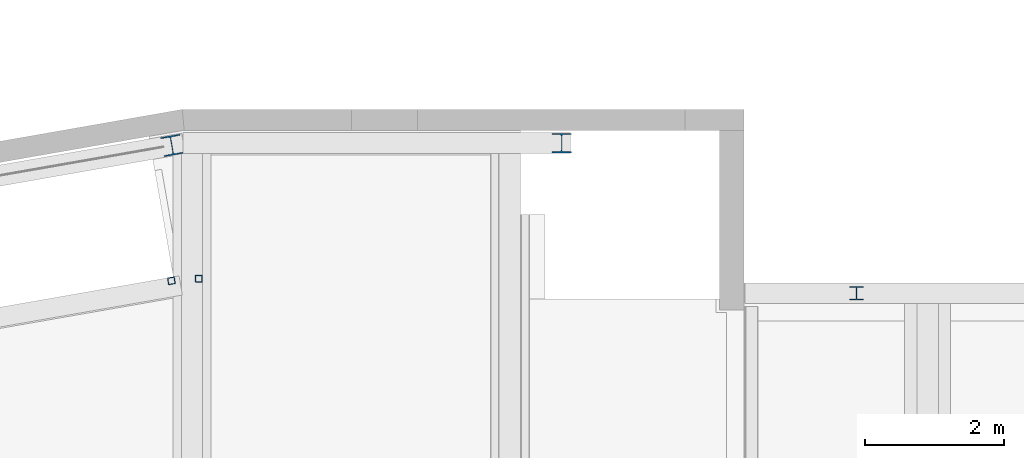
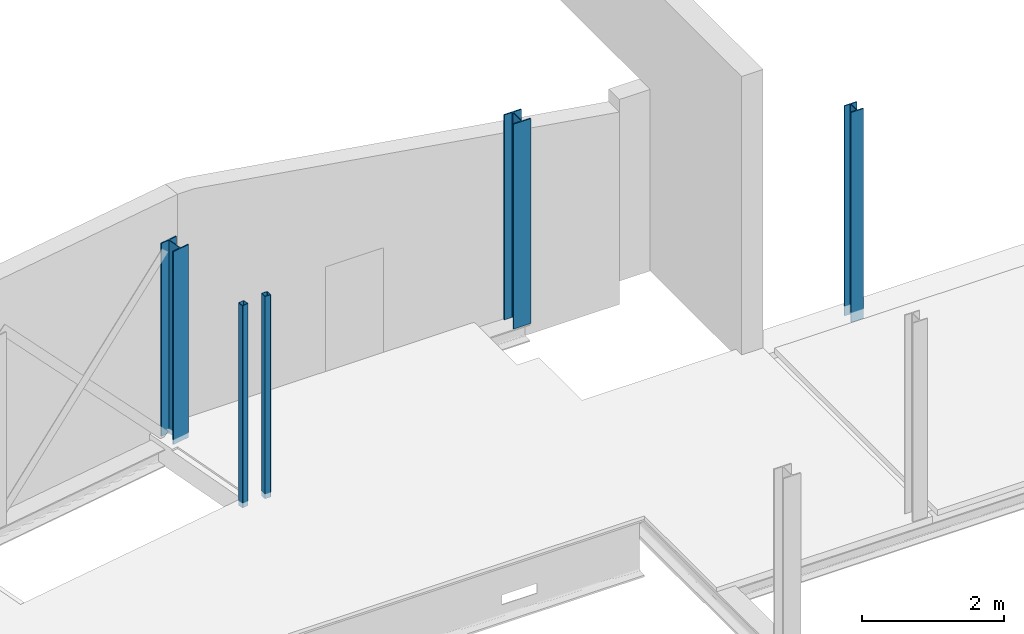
# One storey, part 4 of 38: 5 columns.
"""IFC2X3 building model written with IfcOpenShell, lengths in millimetres."""

from ifc_helpers import new_model, entity, si_unit, converted_unit, derived_unit, direction, frame, frame_2d, origin, place, context, subcontext, project, spatial, polyline, circle_curve, parameter, trimmed, segment, composite_curve, i_section, outline, extrude, source, transform, mapped, material, type_object, type_shapes, element, save


model = new_model("IFC2X3")

# Units and contexts
model_context = context("Model", 3, precision=0.01, world=origin(), true_north=direction((6.12303176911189e-17, 1.0)))
body_context = subcontext(model_context, "Body", "Model", "MODEL_VIEW")
ifc_project = project(units=[si_unit("LENGTHUNIT", "METRE", prefix="MILLI"), si_unit("AREAUNIT", "SQUARE_METRE", prefix="MILLI"), si_unit("VOLUMEUNIT", "CUBIC_METRE"), converted_unit("PLANEANGLEUNIT", "DEGREE", entity("IfcRatioMeasure", 0.0174532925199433), si_unit("PLANEANGLEUNIT", "RADIAN"), dimensions=[0, 0, 0, 0, 0, 0, 0]), si_unit("MASSUNIT", "GRAM", prefix="KILO"), derived_unit("MASSDENSITYUNIT", [(si_unit("MASSUNIT", "GRAM", prefix="KILO"), 1), (si_unit("LENGTHUNIT", "METRE"), -3)]), derived_unit("MOMENTOFINERTIAUNIT", [(si_unit("LENGTHUNIT", "METRE"), 4)]), si_unit("TIMEUNIT", "SECOND"), si_unit("FREQUENCYUNIT", "HERTZ"), si_unit("THERMODYNAMICTEMPERATUREUNIT", "DEGREE_CELSIUS"), derived_unit("THERMALTRANSMITTANCEUNIT", [(si_unit("MASSUNIT", "GRAM", prefix="KILO"), 1), (si_unit("THERMODYNAMICTEMPERATUREUNIT", "KELVIN"), -1), (si_unit("TIMEUNIT", "SECOND"), -3)]), derived_unit("VOLUMETRICFLOWRATEUNIT", [(si_unit("LENGTHUNIT", "METRE"), 3), (si_unit("TIMEUNIT", "SECOND"), -1)]), si_unit("ELECTRICCURRENTUNIT", "AMPERE"), si_unit("ELECTRICVOLTAGEUNIT", "VOLT"), si_unit("POWERUNIT", "WATT"), si_unit("FORCEUNIT", "NEWTON", prefix="KILO"), si_unit("ILLUMINANCEUNIT", "LUX"), si_unit("LUMINOUSFLUXUNIT", "LUMEN"), si_unit("LUMINOUSINTENSITYUNIT", "CANDELA"), derived_unit("USERDEFINED", [(si_unit("MASSUNIT", "GRAM", prefix="KILO"), -1), (si_unit("LENGTHUNIT", "METRE"), -2), (si_unit("TIMEUNIT", "SECOND"), 3), (si_unit("LUMINOUSFLUXUNIT", "LUMEN"), 1)]), derived_unit("LINEARVELOCITYUNIT", [(si_unit("LENGTHUNIT", "METRE"), 1), (si_unit("TIMEUNIT", "SECOND"), -1)]), si_unit("PRESSUREUNIT", "PASCAL"), derived_unit("USERDEFINED", [(si_unit("LENGTHUNIT", "METRE"), -2), (si_unit("MASSUNIT", "GRAM", prefix="KILO"), 1), (si_unit("TIMEUNIT", "SECOND"), -2)]), derived_unit("LINEARFORCEUNIT", [(si_unit("MASSUNIT", "GRAM", prefix="KILO"), 1), (si_unit("LENGTHUNIT", "METRE"), 1), (si_unit("TIMEUNIT", "SECOND"), -2), (si_unit("LENGTHUNIT", "METRE"), -1)]), derived_unit("PLANARFORCEUNIT", [(si_unit("MASSUNIT", "GRAM", prefix="KILO"), 1), (si_unit("LENGTHUNIT", "METRE"), 1), (si_unit("TIMEUNIT", "SECOND"), -2), (si_unit("LENGTHUNIT", "METRE"), -2)])], contexts=[model_context])

# Site, building, storey
site_placement = place(None, origin())
site = spatial("IfcSite", under=ifc_project, at=site_placement, Name="Theater aan de Parade", CompositionType="ELEMENT")
building_placement = place(site_placement, origin())
building = spatial("IfcBuilding", under=site, at=building_placement, Name="Theater aan de Parade", CompositionType="ELEMENT")
storey_placement = place(building_placement, frame((0.0, 0.0, 12480.0)))
storey = spatial("IfcBuildingStorey", under=building, at=storey_placement, Name="03 derde verdieping", CompositionType="ELEMENT", Elevation=12480.0)

# Columns
ifc_material = material(Name="00_PBT_MAT_staal_S355")
column_type_1 = type_object("IfcColumnType", Name="28_PBT_SC_staal_H-profiel:S355_HE280B", PredefinedType="COLUMN", material=ifc_material)
shared_shape_1 = source(origin(), body_context, "Body", "SweptSolid", [
    extrude(i_section(OverallWidth=279.999999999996, OverallDepth=280.000000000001, WebThickness=10.5000000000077, FlangeThickness=18.0, FilletRadius=24.0000000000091, at=frame_2d((-8.5265128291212e-12, 1.49213974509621e-12), x_axis=(1.0, 0.0))), frame((59491.1870358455, 21821.3371740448, 12515.0), z_axis=(0.0, 0.0, 1.0), x_axis=(-0.985030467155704, -0.172380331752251, 0.0)), (0.0, 0.0, 1.0), 3319.99999999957),
])
type_shapes(column_type_1, [shared_shape_1])
column_1_placement = place(storey_placement, frame((0.0, 0.0, -12480.0)))
element("IfcColumn", 1, at=column_1_placement, inside=storey, type_object=column_type_1, material=ifc_material, Name="28_PBT_SC_staal_H-profiel:S355_HE280B", ObjectType="28_PBT_SC_staal_H-profiel:S355_HE280B", context=body_context, shape_type="MappedRepresentation", body=[
    mapped(shared_shape_1, transform((0.0, 0.0, 0.0), scale=1.0)),
])
column_type_2 = type_object("IfcColumnType", Name="28_PBT_SC_staal_H-profiel:S355_HE280B", PredefinedType="COLUMN", material=ifc_material)
shared_shape_2 = source(origin(), body_context, "Body", "SweptSolid", [
    extrude(i_section(OverallWidth=279.999999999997, OverallDepth=279.999999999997, WebThickness=10.5000000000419, FlangeThickness=18.0000000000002, FilletRadius=24.0000000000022, at=frame_2d((0.0, 4.32009983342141e-12), x_axis=(0.0, 1.0))), frame((65087.0520755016, 21855.0, 12520.0), z_axis=(0.0, 0.0, 1.0), x_axis=(0.0, -1.0, 0.0)), (0.0, 0.0, 1.0), 3524.99999999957),
])
type_shapes(column_type_2, [shared_shape_2])
column_2_placement = place(storey_placement, frame((0.0, 0.0, -12480.0)))
element("IfcColumn", 2, at=column_2_placement, inside=storey, type_object=column_type_2, material=ifc_material, Name="28_PBT_SC_staal_H-profiel:S355_HE280B", ObjectType="28_PBT_SC_staal_H-profiel:S355_HE280B", context=body_context, shape_type="MappedRepresentation", body=[
    mapped(shared_shape_2, transform((0.0, 0.0, 0.0), scale=1.0)),
])
column_type_3 = type_object("IfcColumnType", Name="28_PBT_SC_staal_H-profiel:S355_HE200B", PredefinedType="COLUMN", material=ifc_material)
shared_shape_3 = source(origin(), body_context, "Body", "SweptSolid", [
    extrude(outline(composite_curve([segment(polyline([(85.0, -100.0), (100.0, -100.0)]), True, "CONTINUOUS"), segment(polyline([(100.0, -100.0), (100.0, 100.0)]), True, "CONTINUOUS"), segment(polyline([(100.0, 100.0), (85.0, 100.0)]), True, "CONTINUOUS"), segment(polyline([(85.0, 100.0), (85.0, 22.5)]), True, "CONTINUOUS"), segment(trimmed(circle_curve(frame_2d((67.0, 22.5), x_axis=(1.0, 0.0)), 18.0), [parameter(270.0)], [parameter(0.0)], True, "PARAMETER"), False, "CONTINUOUS"), segment(polyline([(67.0, 4.50000000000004), (-67.0, 4.5)]), True, "CONTINUOUS"), segment(trimmed(circle_curve(frame_2d((-67.0, 22.5), x_axis=(0.0, -1.0)), 18.0), [parameter(270.0)], [parameter(0.0)], True, "PARAMETER"), False, "CONTINUOUS"), segment(polyline([(-85.0, 22.5), (-85.0, 100.0)]), True, "CONTINUOUS"), segment(polyline([(-85.0, 100.0), (-100.0, 100.0)]), True, "CONTINUOUS"), segment(polyline([(-100.0, 100.0), (-100.0, -100.0)]), True, "CONTINUOUS"), segment(polyline([(-100.0, -100.0), (-85.0, -100.0)]), True, "CONTINUOUS"), segment(polyline([(-85.0, -100.0), (-85.0, -22.5)]), True, "CONTINUOUS"), segment(trimmed(circle_curve(frame_2d((-67.0, -22.5), x_axis=(-1.0, 0.0)), 18.0), [parameter(270.0)], [parameter(0.0)], True, "PARAMETER"), False, "CONTINUOUS"), segment(polyline([(-67.0, -4.5), (67.0, -4.49999999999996)]), True, "CONTINUOUS"), segment(trimmed(circle_curve(frame_2d((67.0, -22.5), x_axis=(0.0, 1.0)), 18.0), [parameter(270.0)], [parameter(0.0)], True, "PARAMETER"), False, "CONTINUOUS"), segment(polyline([(85.0, -22.5), (85.0, -100.0)]), True, "CONTINUOUS")], self_intersect=False)), frame((0.0, 0.0, 12420.0), z_axis=(0.0, 0.0, 1.0), x_axis=(0.0, -1.0, 0.0)), (0.0, 0.0, 1.0), 3615.0),
])
type_shapes(column_type_3, [shared_shape_3])
column_3_placement = place(storey_placement, frame((69319.8589693, 19700.0, -12480.0), z_axis=(0.0, 0.0, 1.0), x_axis=(-1.0, 0.0, 0.0)))
element("IfcColumn", 3, at=column_3_placement, inside=storey, type_object=column_type_3, material=ifc_material, Name="28_PBT_SC_staal_H-profiel:S355_HE200B", ObjectType="28_PBT_SC_staal_H-profiel:S355_HE200B", context=body_context, shape_type="MappedRepresentation", body=[
    mapped(shared_shape_3, transform((0.0, 0.0, 0.0), scale=1.0)),
])
column_type_4 = type_object("IfcColumnType", Name="28_PBT_SC_staal_koker:S355_K100x100x6.3", PredefinedType="COLUMN", material=ifc_material)
shared_shape_4 = source(origin(), body_context, "Body", "SweptSolid", [
    extrude(outline(composite_curve([segment(polyline([(-40.5499999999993, -50.0), (40.5499999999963, -50.0)]), True, "CONTINUOUS"), segment(trimmed(circle_curve(frame_2d((40.5499999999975, -40.5499999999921), x_axis=(0.0, 1.0)), 9.45), [parameter(180.0)], [parameter(270.0)], True, "PARAMETER"), True, "CONTINUOUS"), segment(polyline([(50.0, -40.5500000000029), (50.0, 40.5500000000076)]), True, "CONTINUOUS"), segment(trimmed(circle_curve(frame_2d((40.549999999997, 40.5500000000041), x_axis=(0.0, 1.0)), 9.45), [parameter(270.0)], [parameter(360.0)], True, "PARAMETER"), True, "CONTINUOUS"), segment(polyline([(40.549999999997, 50.0), (-40.5499999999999, 50.0)]), True, "CONTINUOUS"), segment(trimmed(circle_curve(frame_2d((-40.5499999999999, 40.5499999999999), x_axis=(0.0, 1.0)), 9.45), [parameter(0.0)], [parameter(90.0000000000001)], True, "PARAMETER"), True, "CONTINUOUS"), segment(polyline([(-50.0, 40.5500000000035), (-50.0, -40.5499999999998)]), True, "CONTINUOUS"), segment(trimmed(circle_curve(frame_2d((-40.5500000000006, -40.5500000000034), x_axis=(0.0, 1.0)), 9.45), [parameter(90.0)], [parameter(180.0)], True, "PARAMETER"), True, "CONTINUOUS")], self_intersect=False), holes=[composite_curve([segment(polyline([(43.6999999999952, 37.4000000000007), (43.6999999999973, -37.3999999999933)]), True, "CONTINUOUS"), segment(trimmed(circle_curve(frame_2d((37.3999999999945, -37.3999999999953), x_axis=(0.0, 1.0)), 6.3), [parameter(180.0)], [parameter(270.0)], True, "PARAMETER"), False, "CONTINUOUS"), segment(polyline([(37.3999999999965, -43.6999999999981), (-37.4000000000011, -43.6999999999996)]), True, "CONTINUOUS"), segment(trimmed(circle_curve(frame_2d((-37.3999999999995, -37.3999999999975), x_axis=(0.0, 1.0)), 6.3), [parameter(90.0)], [parameter(180.0)], True, "PARAMETER"), False, "CONTINUOUS"), segment(polyline([(-43.6999999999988, -37.4), (-43.6999999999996, 37.4000000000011)]), True, "CONTINUOUS"), segment(trimmed(circle_curve(frame_2d((-37.4000000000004, 37.4000000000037), x_axis=(0.0, 1.0)), 6.3), [parameter(3.05333249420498e-13)], [parameter(90.0000000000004)], True, "PARAMETER"), False, "CONTINUOUS"), segment(polyline([(-37.3999999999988, 43.7000000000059), (37.4000000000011, 43.6999999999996)]), True, "CONTINUOUS"), segment(trimmed(circle_curve(frame_2d((37.3999999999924, 37.3999999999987), x_axis=(0.0, 1.0)), 6.3), [parameter(270.0)], [parameter(0.0)], True, "PARAMETER"), False, "CONTINUOUS")], self_intersect=False)]), frame((59485.0096132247, 19878.5466049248, 12515.0), z_axis=(0.0, 0.0, 1.0), x_axis=(-0.172380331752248, 0.985030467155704, 0.0)), (0.0, 0.0, 1.0), 3479.99999999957),
])
type_shapes(column_type_4, [shared_shape_4])
column_4_placement = place(storey_placement, frame((0.0, 0.0, -12480.0)))
element("IfcColumn", 4, at=column_4_placement, inside=storey, type_object=column_type_4, material=ifc_material, Name="28_PBT_SC_staal_koker:S355_K100x100x6.3", ObjectType="28_PBT_SC_staal_koker:S355_K100x100x6.3", context=body_context, shape_type="MappedRepresentation", body=[
    mapped(shared_shape_4, transform((0.0, 0.0, 0.0), scale=1.0)),
])
column_type_5 = type_object("IfcColumnType", Name="28_PBT_SC_staal_koker:S355_K100x100x6.3", PredefinedType="COLUMN", material=ifc_material)
shared_shape_5 = source(origin(), body_context, "Body", "SweptSolid", [
    extrude(outline(composite_curve([segment(polyline([(-40.5499999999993, -50.0), (40.5499999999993, -50.0)]), True, "CONTINUOUS"), segment(trimmed(circle_curve(frame_2d((40.5499999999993, -40.5500000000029), x_axis=(0.0, 1.0)), 9.45), [parameter(180.0)], [parameter(270.0)], True, "PARAMETER"), True, "CONTINUOUS"), segment(polyline([(50.0, -40.5499999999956), (50.0, 40.5500000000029)]), True, "CONTINUOUS"), segment(trimmed(circle_curve(frame_2d((40.5499999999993, 40.5499999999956), x_axis=(0.0, 1.0)), 9.45), [parameter(270.0)], [parameter(360.0)], True, "PARAMETER"), True, "CONTINUOUS"), segment(polyline([(40.5499999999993, 50.0), (-40.5500000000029, 50.0)]), True, "CONTINUOUS"), segment(trimmed(circle_curve(frame_2d((-40.5499999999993, 40.5499999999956), x_axis=(0.0, 1.0)), 9.45), [parameter(0.0)], [parameter(90.0000000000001)], True, "PARAMETER"), True, "CONTINUOUS"), segment(polyline([(-50.0, 40.5499999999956), (-50.0, -40.5500000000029)]), True, "CONTINUOUS"), segment(trimmed(circle_curve(frame_2d((-40.5499999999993, -40.5500000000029), x_axis=(0.0, 1.0)), 9.45), [parameter(90.0)], [parameter(180.0)], True, "PARAMETER"), True, "CONTINUOUS")], self_intersect=False), holes=[composite_curve([segment(polyline([(43.7000000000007, 37.4000000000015), (43.7000000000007, -37.4000000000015)]), True, "CONTINUOUS"), segment(trimmed(circle_curve(frame_2d((37.4000000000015, -37.4000000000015), x_axis=(0.0, 1.0)), 6.3), [parameter(180.0)], [parameter(270.0)], True, "PARAMETER"), False, "CONTINUOUS"), segment(polyline([(37.4000000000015, -43.6999999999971), (-37.3999999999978, -43.6999999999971)]), True, "CONTINUOUS"), segment(trimmed(circle_curve(frame_2d((-37.3999999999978, -37.4000000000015), x_axis=(0.0, 1.0)), 6.3), [parameter(90.0)], [parameter(180.0)], True, "PARAMETER"), False, "CONTINUOUS"), segment(polyline([(-43.6999999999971, -37.4000000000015), (-43.7000000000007, 37.4000000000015)]), True, "CONTINUOUS"), segment(trimmed(circle_curve(frame_2d((-37.3999999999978, 37.4000000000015), x_axis=(0.0, 1.0)), 6.3), [parameter(3.05333249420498e-13)], [parameter(90.0000000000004)], True, "PARAMETER"), False, "CONTINUOUS"), segment(polyline([(-37.3999999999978, 43.6999999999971), (37.4000000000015, 43.6999999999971)]), True, "CONTINUOUS"), segment(trimmed(circle_curve(frame_2d((37.4000000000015, 37.4000000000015), x_axis=(0.0, 1.0)), 6.3), [parameter(270.0)], [parameter(0.0)], True, "PARAMETER"), False, "CONTINUOUS")], self_intersect=False)]), frame((59879.6576486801, 19910.237517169, 12515.0), z_axis=(0.0, 0.0, 1.0), x_axis=(0.0, 1.0, 0.0)), (0.0, 0.0, 1.0), 3479.99999999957),
])
type_shapes(column_type_5, [shared_shape_5])
column_5_placement = place(storey_placement, frame((0.0, 0.0, -12480.0)))
element("IfcColumn", 5, at=column_5_placement, inside=storey, type_object=column_type_5, material=ifc_material, Name="28_PBT_SC_staal_koker:S355_K100x100x6.3", ObjectType="28_PBT_SC_staal_koker:S355_K100x100x6.3", context=body_context, shape_type="MappedRepresentation", body=[
    mapped(shared_shape_5, transform((0.0, 0.0, 0.0), scale=1.0)),
])

save(model, "model.ifc")
